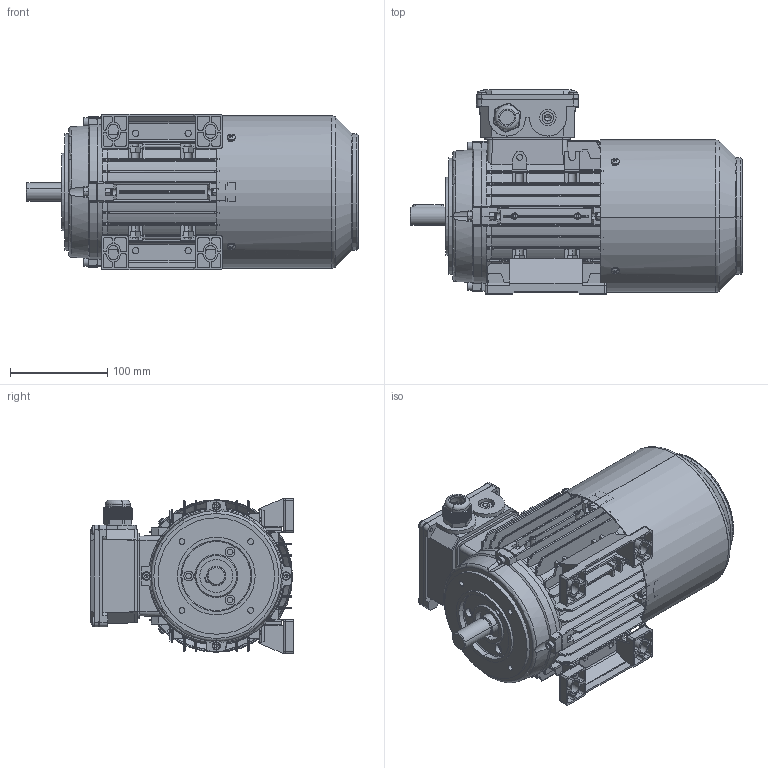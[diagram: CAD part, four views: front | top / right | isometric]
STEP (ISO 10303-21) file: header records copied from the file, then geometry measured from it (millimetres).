
FILE_DESCRIPTION (( 'STEP AP203' ), '1' );
FILE_NAME ('TB80 B34（风罩不带手柄孔）.STEP', '2021-10-21T07:31:20', ( '' ), ( '' ), 'SwSTEP 2.0', 'SolidWorks 2014', '' );
FILE_SCHEMA (( 'CONFIG_CONTROL_DESIGN' ));
Length unit declared in the file: millimetre
Products named in the file (16): Hexagon nuts grade C GB_GB_FASTENER_NUT_SNC1 M5-N; TB80瑞欶ㄗ祥湍忒梟謂ㄘ; Plain parallel keys_GB_CONNECTING_PIECE_KEYS_CSK 6X32; T80菁褐; 80-100堤盄蹟杶; TA80 B14傷裔1; Cross recessed thread forming screws GB_GB_CROSS_SCREWS_TYPE138 M5X12-N; TB80綴傷裔1; 陔諉盄碟釱80-100; TB80 B34（风罩不带手柄孔）; Hexagon socket head cap screws GB_GB_FASTENER_SCREWS_HSHCS M5X25-N; TB80蛌粣; Cross recessed thread forming screws GB_GB_CROSS_SCREWS_TYPE138 M4X12-N; 80怢宒瑞珔; T80儂褲; 陔諉盄碟裔80-100
Assembly tree (36 placements, depth 2):
  TB80 B34（风罩不带手柄孔）
    T80儂褲
    80-100堤盄蹟杶
    Hexagon socket head cap screws GB_GB_FASTENER_SCREWS_HSHCS M5X25-N  x8
    Hexagon nuts grade C GB_GB_FASTENER_NUT_SNC1 M5-N  x8
    Cross recessed thread forming screws GB_GB_CROSS_SCREWS_TYPE138 M5X12-N  x4
    Cross recessed thread forming screws GB_GB_CROSS_SCREWS_TYPE138 M4X12-N  x4
    Plain parallel keys_GB_CONNECTING_PIECE_KEYS_CSK 6X32
    陔諉盄碟釱80-100
    陔諉盄碟裔80-100
    TA80 B14傷裔1
    TB80蛌粣
    TB80瑞欶ㄗ祥湍忒梟謂ㄘ
    TB80綴傷裔1
    80怢宒瑞珔
    T80菁褐  x2
Bounding box: 342 x 210 x 160 mm (x, y, z)
Volume: 995639 mm3; surface area: 721840 mm2
Topology: 36 solids, 36 shells, 4117 faces, 10829 edges, 6851 vertices
Faces by surface type: plane 2167, cylinder 1137, cone 274, bspline 226, torus 201, sphere 112
Entity records: 121200 total; most frequent: CARTESIAN_POINT 33120, ORIENTED_EDGE 18728, DIRECTION 16922, EDGE_CURVE 9364, VERTEX_POINT 5962, AXIS2_PLACEMENT_3D 5849, LINE 5224, VECTOR 5224
